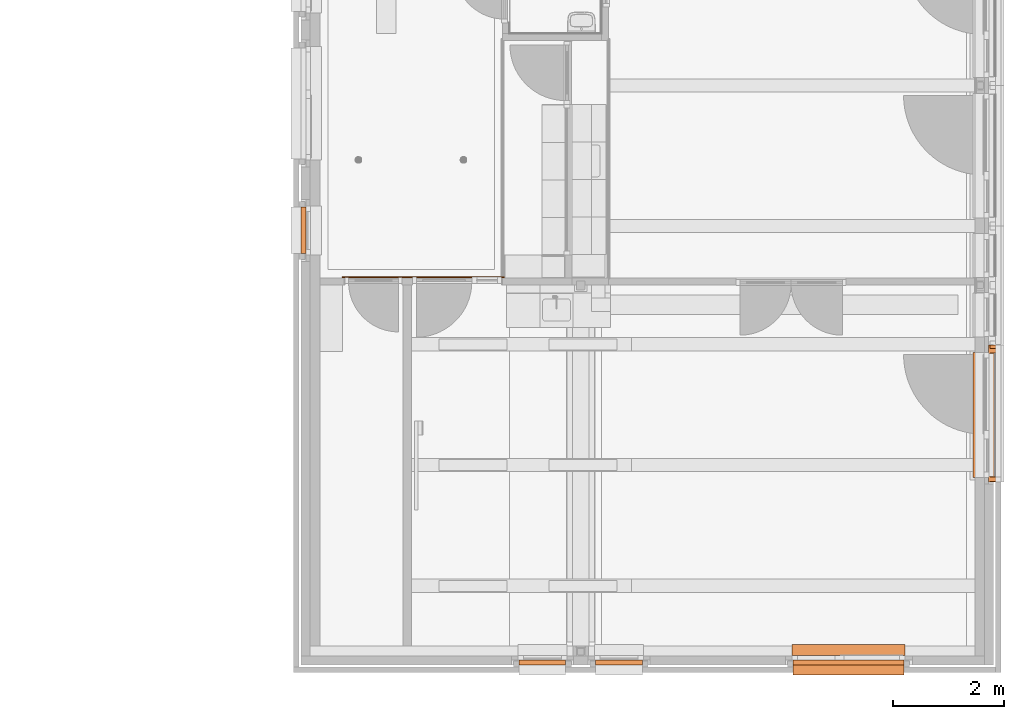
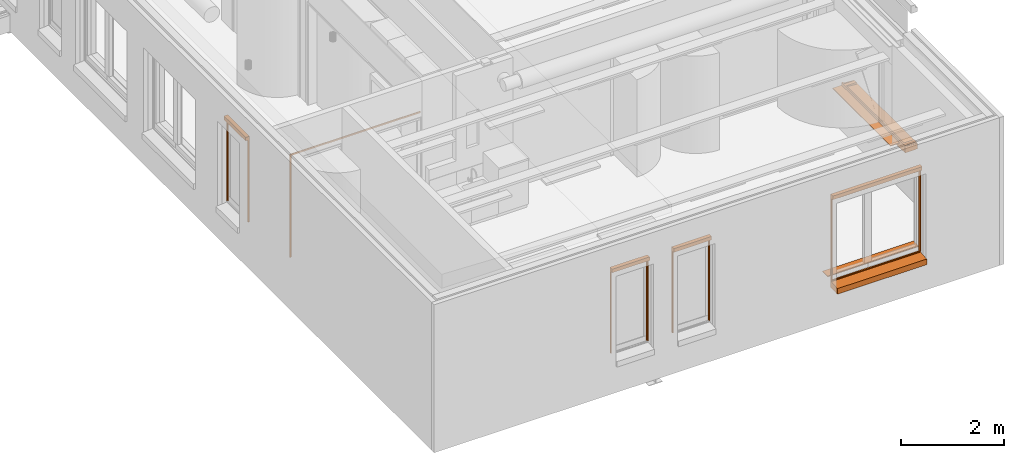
# One storey, part 96 of 128: 9 proxies.
"""IFC2X3 building model written with IfcOpenShell, lengths in millimetres."""

from ifc_helpers import new_model, entity, si_unit, converted_unit, derived_unit, direction, frame, frame_2d, origin, origin_2d_with_axis, place, context, subcontext, project, spatial, polyline, circle_curve, parameter, trimmed, segment, composite_curve, rectangle, outline, extrude, source, transform, mapped, material, material_list, type_object, type_shapes, element, save


model = new_model("IFC2X3")

# Units and contexts
model_context = context("Model", 3, precision=0.01, world=origin(), true_north=direction((6.123031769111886e-17, 1.0)))
body_context = subcontext(model_context, "Body", "Model", "MODEL_VIEW")
ifc_project = project(units=[si_unit("LENGTHUNIT", "METRE", prefix="MILLI"), si_unit("AREAUNIT", "SQUARE_METRE"), si_unit("VOLUMEUNIT", "CUBIC_METRE"), converted_unit("PLANEANGLEUNIT", "DEGREE", entity("IfcRatioMeasure", 0.017453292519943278), si_unit("PLANEANGLEUNIT", "RADIAN"), dimensions=[0, 0, 0, 0, 0, 0, 0]), si_unit("MASSUNIT", "GRAM", prefix="KILO"), derived_unit("MASSDENSITYUNIT", [(si_unit("MASSUNIT", "GRAM", prefix="KILO"), 1), (si_unit("LENGTHUNIT", "METRE"), -3)]), derived_unit("IONCONCENTRATIONUNIT", [(si_unit("MASSUNIT", "GRAM", prefix="KILO"), 1), (si_unit("LENGTHUNIT", "METRE"), -3)]), derived_unit("MOMENTOFINERTIAUNIT", [(si_unit("LENGTHUNIT", "METRE"), 4)]), si_unit("TIMEUNIT", "SECOND"), si_unit("FREQUENCYUNIT", "HERTZ"), si_unit("THERMODYNAMICTEMPERATUREUNIT", "DEGREE_CELSIUS"), derived_unit("THERMALTRANSMITTANCEUNIT", [(si_unit("MASSUNIT", "GRAM", prefix="KILO"), 1), (si_unit("THERMODYNAMICTEMPERATUREUNIT", "KELVIN"), -1), (si_unit("TIMEUNIT", "SECOND"), -3)]), derived_unit("THERMALCONDUCTANCEUNIT", [(si_unit("MASSUNIT", "GRAM", prefix="KILO"), 1), (si_unit("THERMODYNAMICTEMPERATUREUNIT", "KELVIN"), -1), (si_unit("TIMEUNIT", "SECOND"), -3), (si_unit("LENGTHUNIT", "METRE"), 1)]), derived_unit("VOLUMETRICFLOWRATEUNIT", [(si_unit("LENGTHUNIT", "METRE"), 3), (si_unit("TIMEUNIT", "SECOND"), -1)]), derived_unit("MASSFLOWRATEUNIT", [(si_unit("MASSUNIT", "GRAM", prefix="KILO"), 1), (si_unit("TIMEUNIT", "SECOND"), -1)]), derived_unit("ROTATIONALFREQUENCYUNIT", [(si_unit("TIMEUNIT", "SECOND"), -1)]), si_unit("ELECTRICCURRENTUNIT", "AMPERE"), si_unit("ELECTRICVOLTAGEUNIT", "VOLT"), si_unit("POWERUNIT", "WATT"), si_unit("FORCEUNIT", "NEWTON", prefix="KILO"), si_unit("ILLUMINANCEUNIT", "LUX"), si_unit("LUMINOUSFLUXUNIT", "LUMEN"), si_unit("LUMINOUSINTENSITYUNIT", "CANDELA"), derived_unit("USERDEFINED", [(si_unit("MASSUNIT", "GRAM", prefix="KILO"), -1), (si_unit("LENGTHUNIT", "METRE"), -2), (si_unit("TIMEUNIT", "SECOND"), 3), (si_unit("LUMINOUSFLUXUNIT", "LUMEN"), 1)]), derived_unit("USERDEFINED", [(si_unit("MASSUNIT", "GRAM", prefix="KILO"), 1), (si_unit("TIMEUNIT", "SECOND"), -3), (si_unit("LENGTHUNIT", "METRE"), 3), (si_unit("ELECTRICCURRENTUNIT", "AMPERE"), -2)]), derived_unit("SOUNDPOWERUNIT", [(si_unit("MASSUNIT", "GRAM", prefix="KILO"), 1), (si_unit("TIMEUNIT", "SECOND"), -3), (si_unit("LENGTHUNIT", "METRE"), 2)]), derived_unit("SOUNDPRESSUREUNIT", [(si_unit("MASSUNIT", "GRAM", prefix="KILO"), 1), (si_unit("LENGTHUNIT", "METRE"), -1), (si_unit("TIMEUNIT", "SECOND"), -2)]), derived_unit("LINEARVELOCITYUNIT", [(si_unit("LENGTHUNIT", "METRE"), 1), (si_unit("TIMEUNIT", "SECOND"), -1)]), si_unit("PRESSUREUNIT", "PASCAL"), derived_unit("USERDEFINED", [(si_unit("MASSUNIT", "GRAM", prefix="KILO"), 1), (si_unit("LENGTHUNIT", "METRE"), -2), (si_unit("TIMEUNIT", "SECOND"), -2)]), derived_unit("LINEARFORCEUNIT", [(si_unit("MASSUNIT", "GRAM", prefix="KILO"), 1), (si_unit("TIMEUNIT", "SECOND"), -2)]), derived_unit("PLANARFORCEUNIT", [(si_unit("MASSUNIT", "GRAM", prefix="KILO"), 1), (si_unit("LENGTHUNIT", "METRE"), -1), (si_unit("TIMEUNIT", "SECOND"), -2)]), derived_unit("SPECIFICHEATCAPACITYUNIT", [(si_unit("THERMODYNAMICTEMPERATUREUNIT", "KELVIN"), -1), (si_unit("LENGTHUNIT", "METRE"), 2), (si_unit("TIMEUNIT", "SECOND"), -2)]), derived_unit("HEATINGVALUEUNIT", [(si_unit("LENGTHUNIT", "METRE"), 2), (si_unit("TIMEUNIT", "SECOND"), -2)]), derived_unit("VAPORPERMEABILITYUNIT", [(si_unit("LENGTHUNIT", "METRE"), -1), (si_unit("TIMEUNIT", "SECOND"), 1)]), derived_unit("DYNAMICVISCOSITYUNIT", [(si_unit("MASSUNIT", "GRAM", prefix="KILO"), 1), (si_unit("TIMEUNIT", "SECOND"), -1), (si_unit("LENGTHUNIT", "METRE"), -1)]), derived_unit("THERMALEXPANSIONCOEFFICIENTUNIT", [(si_unit("THERMODYNAMICTEMPERATUREUNIT", "KELVIN"), -1)]), derived_unit("MODULUSOFELASTICITYUNIT", [(si_unit("MASSUNIT", "GRAM", prefix="KILO"), 1), (si_unit("LENGTHUNIT", "METRE"), -1), (si_unit("TIMEUNIT", "SECOND"), -2)]), derived_unit("ISOTHERMALMOISTURECAPACITYUNIT", [(si_unit("LENGTHUNIT", "METRE"), 3), (si_unit("MASSUNIT", "GRAM", prefix="KILO"), -1)]), derived_unit("MOISTUREDIFFUSIVITYUNIT", [(si_unit("TIMEUNIT", "SECOND"), -1), (si_unit("LENGTHUNIT", "METRE"), 2)])], contexts=[model_context])

# Site, building, storey
site_placement = place(None, frame((0.0, 300.0, 0.0)))
site = spatial("IfcSite", under=ifc_project, at=site_placement, Name="<Kadastrale nummers>", CompositionType="ELEMENT")
building_placement = place(site_placement, origin())
building = spatial("IfcBuilding", under=site, at=building_placement, CompositionType="ELEMENT")
storey_placement = place(building_placement, frame((0.0, 0.0, 3560.0000331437)))
storey = spatial("IfcBuildingStorey", under=building, at=storey_placement, Name="01 eerste verdieping", CompositionType="ELEMENT", Elevation=3560.0000331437)

# Proxies
ifc_material_1 = material(Name="ISR_Beton_prefab")
building_element_proxy_type_1 = type_object("IfcBuildingElementProxyType", Name="29_DAT_Prefab betonnen waterslag lang:22 eind", PredefinedType="NOTDEFINED", material=ifc_material_1)
shared_shape_1 = source(origin(), body_context, "Body", "SweptSolid", [
    extrude(outline(polyline([(-16.052237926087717, -115.0), (26.113434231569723, -115.0), (5.9910416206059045, 115.0), (-16.052237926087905, 115.0), (-16.052237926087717, -115.0)])), frame((2320.0, 75.0, -16.05223792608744), z_axis=(1.0, 0.0, 0.0), x_axis=(0.0, 0.0, -1.0)), (0.0, 0.0, 1.0), 79.99999999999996),
    extrude(outline(polyline([(-16.052237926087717, -115.0), (26.113434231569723, -115.0), (5.9910416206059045, 115.0), (-16.052237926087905, 115.0), (-16.052237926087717, -115.0)])), frame((10.0, 75.0, -16.05223792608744), z_axis=(1.0, 0.0, 0.0), x_axis=(0.0, 0.0, -1.0)), (0.0, 0.0, 1.0), 80.00000000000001),
    extrude(outline(composite_curve([segment(polyline([(-140.0, -95.7340207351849), (-110.0, -95.7340207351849)]), True, "CONTINUOUS"), segment(polyline([(-110.0, -95.7340207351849), (-110.0, -73.7340207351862)]), True, "CONTINUOUS"), segment(polyline([(-110.0, -73.7340207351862), (140.0, -51.861854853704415)]), True, "CONTINUOUS"), segment(polyline([(140.0, -51.86185485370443), (140.0, 79.26597926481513)]), True, "CONTINUOUS"), segment(polyline([(140.0, 79.26597926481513), (115.0, 79.26597926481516)]), True, "CONTINUOUS"), segment(trimmed(circle_curve(frame_2d((110.0, 79.26597926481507), x_axis=(1.0, 0.0)), 5.000000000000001), [parameter(179.99999999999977)], [parameter(4.0711099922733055e-13)], True, "PARAMETER"), False, "CONTINUOUS"), segment(polyline([(105.0, 79.26597926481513), (-140.0, 79.26597926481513)]), True, "CONTINUOUS"), segment(polyline([(-140.0, 79.26597926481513), (-140.0, -95.7340207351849)]), True, "CONTINUOUS")], self_intersect=False)), frame((0.0, 80.0, -95.73402073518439), z_axis=(1.0, 0.0, 0.0), x_axis=(0.0, -1.0, 0.0)), (0.0, 0.0, 1.0), 2467.0000000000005),
])
type_shapes(building_element_proxy_type_1, [shared_shape_1])
proxy_1_placement = place(storey_placement, frame((48965.0, 5760.0, 890.0000018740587), z_axis=(0.0, 0.0, 1.0), x_axis=(0.0, 1.0, 0.0)))
element("IfcBuildingElementProxy", 1, at=proxy_1_placement, inside=storey, type_object=building_element_proxy_type_1, material=ifc_material_1, Name="29_DAT_Prefab betonnen waterslag lang:22 eind", ObjectType="29_DAT_Prefab betonnen waterslag lang:22 eind", context=body_context, shape_type="MappedRepresentation", body=[
    mapped(shared_shape_1, transform((0.0, 0.0, 0.0), scale=1.0)),
])
building_element_proxy_type_2 = type_object("IfcBuildingElementProxyType", Name="29_DAT_Prefab betonnen waterslag kort:29_DAT_Prefab betonnen waterslag kort", PredefinedType="NOTDEFINED", material=ifc_material_1)
shared_shape_2 = source(origin(), body_context, "Body", "SweptSolid", [
    extrude(outline(composite_curve([segment(polyline([(-137.5, -95.62465990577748), (-107.49999999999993, -95.62465990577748)]), True, "CONTINUOUS"), segment(polyline([(-107.49999999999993, -95.62465990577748), (-107.49999999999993, -73.62465990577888)]), True, "CONTINUOUS"), segment(polyline([(-107.49999999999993, -73.62465990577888), (132.50000000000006, -52.627380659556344)]), True, "CONTINUOUS"), segment(polyline([(132.5, -52.627380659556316), (132.5, 79.37534009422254)]), True, "CONTINUOUS"), segment(polyline([(132.5, 79.37534009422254), (117.49999999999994, 79.37534009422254)]), True, "CONTINUOUS"), segment(trimmed(circle_curve(frame_2d((112.49999999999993, 79.37534009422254), x_axis=(1.0, 0.0)), 5.000000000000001), [parameter(179.99999999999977)], [parameter(359.9999999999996)], True, "PARAMETER"), False, "CONTINUOUS"), segment(polyline([(107.49999999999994, 79.37534009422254), (-137.5, 79.37534009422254)]), True, "CONTINUOUS"), segment(polyline([(-137.5, 79.37534009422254), (-137.5, -95.62465990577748)]), True, "CONTINUOUS")], self_intersect=False)), frame((0.0, 82.50000000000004, -95.62465990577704), z_axis=(1.0, 0.0, 0.0), x_axis=(0.0, -1.0, 0.0)), (0.0, 0.0, 1.0), 2000.0000000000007),
])
type_shapes(building_element_proxy_type_2, [shared_shape_2])
proxy_2_placement = place(storey_placement, frame((45225.0, 2335.0, 890.0000018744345)))
element("IfcBuildingElementProxy", 2, at=proxy_2_placement, inside=storey, type_object=building_element_proxy_type_2, material=ifc_material_1, Name="29_DAT_Prefab betonnen waterslag kort:29_DAT_Prefab betonnen waterslag kort", ObjectType="29_DAT_Prefab betonnen waterslag kort:29_DAT_Prefab betonnen waterslag kort", context=body_context, shape_type="MappedRepresentation", body=[
    mapped(shared_shape_2, transform((0.0, 0.0, 0.0), scale=1.0)),
])

# Space
space_placement = place(storey_placement, origin())
space = spatial("IfcSpace", under=storey, at=space_placement, Name="1.24", CompositionType="ELEMENT", InteriorOrExteriorSpace="INTERNAL")

# Proxies
ifc_material_2 = material(Name="e1_natuursteen")
building_element_proxy_type_3 = type_object("IfcBuildingElementProxyType", Name="NLRS_31_GM_WPB_vensterbank natuursteen -SH_gen_ASN:200x18", PredefinedType="USERDEFINED", material=ifc_material_2)
shared_shape_3 = source(origin(), body_context, "Body", "SweptSolid", [
    extrude(rectangle(XDim=200.0, YDim=2250.000000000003, at=origin_2d_with_axis()), frame((0.0, -100.0, 0.0), z_axis=(0.0, 0.0, 1.0), x_axis=(0.0, -1.0, 0.0)), (0.0, 0.0, 1.0), 17.999999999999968),
])
type_shapes(building_element_proxy_type_3, [shared_shape_3])
proxy_3_placement = place(space_placement, frame((48468.0, 6965.0, 920.0000018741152), z_axis=(0.0, 0.0, 1.0), x_axis=(0.0, 1.0, 0.0)))
element("IfcBuildingElementProxy", 3, at=proxy_3_placement, inside=space, type_object=building_element_proxy_type_3, material=ifc_material_2, Name="NLRS_31_GM_WPB_vensterbank natuursteen -SH_gen_ASN:200x18", ObjectType="NLRS_31_GM_WPB_vensterbank natuursteen -SH_gen_ASN:200x18", context=body_context, shape_type="MappedRepresentation", body=[
    mapped(shared_shape_3, transform((0.0, 0.0, 0.0), scale=1.0)),
])
ifc_material_3 = material(Name="STAAL_RAL 7006")
ifc_material_4 = material(Name="<Unnamed>")
ifc_material_list = material_list([ifc_material_3, ifc_material_4])
building_element_proxy_type_4 = type_object("IfcBuildingElementProxyType", Name="31_DAT_Screen_zonwering_bak85:31_DAT_Screen_zonwering_bak85", PredefinedType="NOTDEFINED", material=ifc_material_list)
shared_shape_4 = source(origin(), body_context, "Body", "SweptSolid", [
    extrude(outline(polyline([(-53.573897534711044, -60.698648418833), (27.826102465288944, -60.698648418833), (27.826102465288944, 17.501351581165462), (24.626102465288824, 17.501351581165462), (24.626102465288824, 22.501351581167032), (1.1216926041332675, 22.501351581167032), (1.1216926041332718, 20.695945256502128), (-53.573897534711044, 20.695945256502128), (-53.573897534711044, -60.698648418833)])), frame((838.0, 29.62610246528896, 2772.501351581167), z_axis=(1.0, 0.0, 0.0), x_axis=(0.0, -1.0, 0.0)), (0.0, 0.0, 1.0), 1.9999999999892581),
    extrude(outline(polyline([(-51.082598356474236, -55.832432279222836), (33.91740164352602, -55.832432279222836), (33.91740164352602, 29.167567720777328), (28.91740164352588, 29.167567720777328), (28.91740164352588, 24.16756772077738), (32.117401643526, 24.16756772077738), (32.117401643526, -54.032432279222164), (-49.28259835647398, -54.032432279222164), (-49.28259835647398, 27.362161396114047), (5.41299178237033, 27.362161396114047), (5.41299178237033, 29.167567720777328), (-51.082598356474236, 29.167567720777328), (-51.082598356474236, -55.832432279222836)])), frame((0.0, 33.91740164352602, 2779.1675677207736), z_axis=(1.0, 0.0, 0.0), x_axis=(0.0, -1.0, 0.0)), (0.0, 0.0, 1.0), 839.9999999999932),
    extrude(outline(polyline([(-53.573897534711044, -60.698648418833), (27.826102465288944, -60.698648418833), (27.826102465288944, 17.501351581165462), (24.626102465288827, 17.501351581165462), (24.626102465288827, 22.501351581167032), (1.1216926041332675, 22.501351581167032), (1.1216926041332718, 20.695945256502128), (-53.573897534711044, 20.695945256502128), (-53.573897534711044, -60.698648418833)])), frame((0.0, 29.62610246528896, 2772.501351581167), z_axis=(1.0, 0.0, 0.0), x_axis=(0.0, -1.0, 0.0)), (0.0, 0.0, 1.0), 1.999999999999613),
    extrude(rectangle(XDim=1.163311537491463, YDim=800.0000000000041, at=frame_2d((2.1094237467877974e-15, 0.0), x_axis=(1.0, 0.0))), frame((420.0, 20.03729323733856, 2750.0), z_axis=(0.0, 0.0, 1.0), x_axis=(0.0, -1.0, 0.0)), (0.0, 0.0, 1.0), 47.3934410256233),
    extrude(outline(composite_curve([segment(trimmed(circle_curve(frame_2d((21.523758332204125, 7.502327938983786), x_axis=(1.0, 0.0)), 1.5000000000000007), [parameter(6.615553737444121e-13)], [parameter(90.00000000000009)], True, "PARAMETER"), True, "CONTINUOUS"), segment(polyline([(21.523758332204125, 9.00232793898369), (-8.97624166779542, 9.00232793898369)]), True, "CONTINUOUS"), segment(trimmed(circle_curve(frame_2d((-8.97624166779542, 6.00232793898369), x_axis=(1.0, 0.0)), 3.0), [parameter(90.00000000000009)], [parameter(172.8445490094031)], True, "PARAMETER"), True, "CONTINUOUS"), segment(polyline([(-11.952877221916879, 6.376013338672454), (-12.470504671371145, 2.2367466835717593)]), True, "CONTINUOUS"), segment(trimmed(circle_curve(frame_2d((-11.733933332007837, 2.1446362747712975), x_axis=(1.0, 0.0)), 0.7423083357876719), [parameter(172.87199730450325)], [parameter(320.7928857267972)], True, "PARAMETER"), True, "CONTINUOUS"), segment(trimmed(circle_curve(frame_2d((-8.97624166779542, 0.002327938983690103), x_axis=(1.0, 0.0)), 2.75), [parameter(218.21030001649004)], [parameter(142.52672013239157)], True, "PARAMETER"), False, "CONTINUOUS"), segment(trimmed(circle_curve(frame_2d((-11.733933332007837, -2.1399803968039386), x_axis=(1.0, 0.0)), 0.7423083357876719), [parameter(36.476465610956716)], [parameter(187.12800269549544)], True, "PARAMETER"), True, "CONTINUOUS"), segment(polyline([(-12.470504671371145, -2.2320908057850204), (-11.95287722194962, -6.3713574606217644)]), True, "CONTINUOUS"), segment(trimmed(circle_curve(frame_2d((-8.97624166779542, -5.9976720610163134), x_axis=(1.0, 0.0)), 3.0), [parameter(187.15545099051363)], [parameter(269.9999999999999)], True, "PARAMETER"), True, "CONTINUOUS"), segment(polyline([(-8.97624166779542, -8.997672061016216), (21.523758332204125, -8.997672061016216)]), True, "CONTINUOUS"), segment(trimmed(circle_curve(frame_2d((21.523758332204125, -7.497672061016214), x_axis=(1.0, 0.0)), 1.4999999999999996), [parameter(269.9999999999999)], [parameter(7.124442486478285e-13)], True, "PARAMETER"), True, "CONTINUOUS"), segment(polyline([(23.02375833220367, -7.4976720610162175), (23.02375833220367, 7.50232793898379)]), True, "CONTINUOUS")], self_intersect=False)), frame((20.0, 19.99767206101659, 2790.417199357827), z_axis=(1.0, 0.0, 0.0), x_axis=(0.0, 0.0, -1.0)), (0.0, 0.0, 1.0), 800.0000000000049),
    extrude(outline(polyline([(-16.231574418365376, -14.638298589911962), (13.768425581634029, -14.638298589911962), (13.768425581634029, 15.36170141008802), (-6.2315744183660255, 15.36170141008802), (-6.2315744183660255, 10.361701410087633), (-4.769580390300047, 10.361701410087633), (-4.769580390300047, 13.866111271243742), (12.23272922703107, 13.866111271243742), (12.23272922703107, -4.579546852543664), (-4.769580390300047, -4.579546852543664), (-4.769580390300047, -1.1166850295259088), (-6.231574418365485, -1.1166850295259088), (-6.231574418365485, -6.116685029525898), (12.232729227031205, -6.116685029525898), (12.232729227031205, -13.138298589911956), (-16.231574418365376, -13.138298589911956), (-16.231574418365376, -14.638298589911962)])), frame((826.2315744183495, 14.638298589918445, 810.0)), (0.0, 0.0, 1.0), 1940.0000000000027),
    extrude(outline(polyline([(-14.638298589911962, -16.231574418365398), (-13.13829858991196, -16.231574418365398), (-13.13829858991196, 12.232729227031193), (-6.116685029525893, 12.232729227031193), (-6.116685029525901, -6.231574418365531), (-1.116685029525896, -6.231574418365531), (-1.116685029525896, -4.769580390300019), (-4.579546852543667, -4.769580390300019), (-4.579546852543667, 12.2327292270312), (13.866111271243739, 12.2327292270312), (13.866111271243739, -4.769580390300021), (10.361701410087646, -4.769580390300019), (10.361701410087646, -6.231574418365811), (15.361701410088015, -6.231574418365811), (15.361701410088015, 13.76842558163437), (-14.638298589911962, 13.76842558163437), (-14.638298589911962, -16.231574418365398)])), frame((13.768425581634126, 14.638298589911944, 810.0), z_axis=(0.0, 0.0, 1.0), x_axis=(0.0, 1.0, 0.0)), (0.0, 0.0, 1.0), 1940.0000000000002),
])
type_shapes(building_element_proxy_type_4, [shared_shape_4])
for number, where, z_axis, x_axis, name in (
    (4, (36449.0, 9870.0, 90.00000187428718), (0.0, 0.0, 1.0), (0.0, 1.0, 0.0), "31_DAT_Screen_zonwering_bak85:31_DAT_Screen_zonwering_bak85"),
    (5, (41130.0, 2548.9986232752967, 90.00000187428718), (0.0, 0.0, 1.0), (-1.0, 0.0, 0.0), "31_DAT_Screen_zonwering_bak85:31_DAT_Screen_zonwering_bak85"),
    (6, (42510.0, 2548.998623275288, 90.00000187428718), (0.0, 0.0, 1.0), (-1.0, 0.0, 0.0), "31_DAT_Screen_zonwering_bak85:31_DAT_Screen_zonwering_bak85"),
):
    element("IfcBuildingElementProxy", number, at=place(storey_placement, frame(where, z_axis=z_axis, x_axis=x_axis)), inside=storey, type_object=building_element_proxy_type_4, material=ifc_material_list, Name=name, ObjectType="31_DAT_Screen_zonwering_bak85:31_DAT_Screen_zonwering_bak85", context=body_context, shape_type="MappedRepresentation", body=[
        mapped(shared_shape_4, transform((0.0, 0.0, 0.0), scale=1.0)),
    ])
building_element_proxy_type_5 = type_object("IfcBuildingElementProxyType", Name="31_DAT_Screen_zonwering_bak85:31_DAT_Screen_zonwering_bak85", PredefinedType="NOTDEFINED", material=ifc_material_list)
shared_shape_5 = source(origin(), body_context, "Body", "SweptSolid", [
    extrude(outline(polyline([(-60.69864841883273, -53.573897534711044), (20.695945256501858, -53.573897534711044), (20.695945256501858, 1.1216926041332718), (22.501351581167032, 1.1216926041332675), (22.501351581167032, 24.626102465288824), (17.501351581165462, 24.626102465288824), (17.501351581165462, 27.826102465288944), (-60.69864841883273, 27.826102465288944), (-60.69864841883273, -53.573897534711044)])), frame((1998.0, -29.62610246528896, 2422.501351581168), z_axis=(1.0, 0.0, 0.0), x_axis=(0.0, 0.0, -1.0)), (0.0, 0.0, 1.0), 1.9999999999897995),
    extrude(outline(polyline([(-55.83243227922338, -51.08259835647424), (29.167567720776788, -51.08259835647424), (29.167567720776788, 5.412991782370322), (27.362161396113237, 5.412991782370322), (27.362161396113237, -49.28259835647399), (-54.032432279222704, -49.28259835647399), (-54.032432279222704, 32.117401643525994), (24.16756772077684, 32.117401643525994), (24.16756772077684, 28.91740164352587), (29.167567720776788, 28.91740164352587), (29.167567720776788, 33.917401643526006), (-55.83243227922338, 33.917401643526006), (-55.83243227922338, -51.08259835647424)])), frame((0.0, -33.917401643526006, 2429.1675677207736), z_axis=(1.0, 0.0, 0.0), x_axis=(0.0, 0.0, -1.0)), (0.0, 0.0, 1.0), 1999.999999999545),
    extrude(outline(polyline([(-60.69864841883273, -53.573897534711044), (20.695945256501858, -53.573897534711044), (20.695945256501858, 1.1216926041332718), (22.501351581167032, 1.1216926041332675), (22.501351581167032, 24.626102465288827), (17.501351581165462, 24.626102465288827), (17.501351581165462, 27.826102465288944), (-60.69864841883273, 27.826102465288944), (-60.69864841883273, -53.573897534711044)])), frame((0.0, -29.62610246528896, 2422.501351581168), z_axis=(1.0, 0.0, 0.0), x_axis=(0.0, 0.0, -1.0)), (0.0, 0.0, 1.0), 1.999999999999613),
    extrude(rectangle(XDim=1959.9999999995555, YDim=1.163311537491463, at=frame_2d((0.0, -2.1094237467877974e-15), x_axis=(1.0, 0.0))), frame((1000.0, -20.037293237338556, 2382.3606486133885)), (0.0, 0.0, 1.0), 17.639351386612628),
    extrude(outline(composite_curve([segment(polyline([(-7.5023279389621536, -23.023758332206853), (7.4976720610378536, -23.023758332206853)]), True, "CONTINUOUS"), segment(trimmed(circle_curve(frame_2d((7.49767206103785, -21.523758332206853), x_axis=(0.0, -1.0)), 1.4999999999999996), [parameter(359.99999999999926)], [parameter(90.00000000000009)], True, "PARAMETER"), True, "CONTINUOUS"), segment(polyline([(8.997672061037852, -21.523758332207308), (8.997672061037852, 8.976241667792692)]), True, "CONTINUOUS"), segment(trimmed(circle_curve(frame_2d((5.9976720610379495, 8.976241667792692), x_axis=(0.0, -1.0)), 3.0), [parameter(90.00000000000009)], [parameter(172.84454900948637)], True, "PARAMETER"), True, "CONTINUOUS"), segment(polyline([(6.3713574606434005, 11.952877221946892), (2.2320908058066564, 12.470504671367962)]), True, "CONTINUOUS"), segment(trimmed(circle_curve(frame_2d((2.1399803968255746, 11.733933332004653), x_axis=(0.0, -1.0)), 0.7423083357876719), [parameter(172.87199730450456)], [parameter(323.5235343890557)], True, "PARAMETER"), True, "CONTINUOUS"), segment(trimmed(circle_curve(frame_2d((-0.002327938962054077, 8.976241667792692), x_axis=(0.0, -1.0)), 2.75), [parameter(217.47327986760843)], [parameter(141.78969998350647)], True, "PARAMETER"), False, "CONTINUOUS"), segment(trimmed(circle_curve(frame_2d((-2.1446362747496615, 11.733933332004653), x_axis=(0.0, -1.0)), 0.7423083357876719), [parameter(39.207114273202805)], [parameter(187.12800269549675)], True, "PARAMETER"), True, "CONTINUOUS"), segment(polyline([(-2.2367466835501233, 12.470504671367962), (-6.376013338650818, 11.952877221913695)]), True, "CONTINUOUS"), segment(trimmed(circle_curve(frame_2d((-6.002327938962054, 8.976241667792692), x_axis=(0.0, -1.0)), 3.0), [parameter(187.1554509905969)], [parameter(269.9999999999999)], True, "PARAMETER"), True, "CONTINUOUS"), segment(polyline([(-9.002327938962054, 8.976241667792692), (-9.002327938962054, -21.523758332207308)]), True, "CONTINUOUS"), segment(trimmed(circle_curve(frame_2d((-7.50232793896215, -21.523758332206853), x_axis=(0.0, -1.0)), 1.5000000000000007), [parameter(269.9999999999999)], [parameter(359.9999999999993)], True, "PARAMETER"), True, "CONTINUOUS")], self_intersect=False)), frame((20.0, -19.997672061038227, 2375.3844069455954), z_axis=(1.0, 0.0, 0.0), x_axis=(0.0, 1.0, 0.0)), (0.0, 0.0, 1.0), 1959.999999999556),
    extrude(outline(polyline([(-14.638298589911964, -16.231574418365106), (-13.138298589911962, -16.231574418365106), (-13.138298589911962, 12.23272922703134), (-6.116685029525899, 12.23272922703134), (-6.116685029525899, -6.231574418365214), (-1.116685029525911, -6.231574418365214), (-1.116685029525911, -4.769580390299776), (-4.579546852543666, -4.769580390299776), (-4.579546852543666, 12.23272922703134), (13.86611127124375, 12.23272922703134), (13.86611127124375, -4.769580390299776), (10.36170141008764, -4.769580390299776), (10.36170141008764, -6.2315744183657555), (15.36170141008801, -6.2315744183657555), (15.36170141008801, 13.7684255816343), (-14.638298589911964, 13.7684255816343), (-14.638298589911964, -16.231574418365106)])), frame((1986.2315744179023, -14.638298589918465, 450.0), z_axis=(0.0, 0.0, 1.0), x_axis=(0.0, -1.0, 0.0)), (0.0, 0.0, 1.0), 1950.0000000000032),
    extrude(outline(polyline([(-16.231574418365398, -14.638298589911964), (13.768425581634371, -14.638298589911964), (13.76842558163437, 15.361701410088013), (-6.231574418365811, 15.361701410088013), (-6.231574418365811, 10.361701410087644), (-4.769580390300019, 10.361701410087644), (-4.769580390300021, 13.866111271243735), (12.2327292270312, 13.866111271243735), (12.2327292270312, -4.57954685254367), (-4.769580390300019, -4.57954685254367), (-4.769580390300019, -1.1166850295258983), (-6.231574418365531, -1.1166850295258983), (-6.231574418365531, -6.116685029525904), (12.232729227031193, -6.116685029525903), (12.232729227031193, -13.138298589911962), (-16.231574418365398, -13.138298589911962), (-16.231574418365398, -14.638298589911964)])), frame((13.768425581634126, -14.638298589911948, 450.0), z_axis=(0.0, 0.0, 1.0), x_axis=(-1.0, 0.0, 0.0)), (0.0, 0.0, 1.0), 1950.0000000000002),
])
type_shapes(building_element_proxy_type_5, [shared_shape_5])
proxy_4_placement = place(storey_placement, frame((45225.0, 2548.9986232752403, 440.0000018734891)))
element("IfcBuildingElementProxy", 7, at=proxy_4_placement, inside=storey, type_object=building_element_proxy_type_5, material=ifc_material_list, Name="31_DAT_Screen_zonwering_bak85:31_DAT_Screen_zonwering_bak85", ObjectType="31_DAT_Screen_zonwering_bak85:31_DAT_Screen_zonwering_bak85", context=body_context, shape_type="MappedRepresentation", body=[
    mapped(shared_shape_5, transform((0.0, 0.0, 0.0), scale=1.0)),
])
building_element_proxy_type_6 = type_object("IfcBuildingElementProxyType", Name="NLRS_31_GM_WPB_vensterbank natuursteen -SH_gen_ASN:200x18", PredefinedType="USERDEFINED", material=ifc_material_2)
shared_shape_6 = source(origin(), body_context, "Body", "SweptSolid", [
    extrude(rectangle(XDim=200.0, YDim=2040.0000000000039, at=origin_2d_with_axis()), frame((0.0, -100.0, 0.0), z_axis=(0.0, 0.0, 1.0), x_axis=(0.0, -1.0, 0.0)), (0.0, 0.0, 1.0), 17.999999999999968),
])
type_shapes(building_element_proxy_type_6, [shared_shape_6])
proxy_5_placement = place(storey_placement, frame((46225.0, 2630.0, 920.0000018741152), z_axis=(0.0, 0.0, 1.0), x_axis=(-1.0, 0.0, 0.0)))
element("IfcBuildingElementProxy", 8, at=proxy_5_placement, inside=storey, type_object=building_element_proxy_type_6, material=ifc_material_2, Name="NLRS_31_GM_WPB_vensterbank natuursteen -SH_gen_ASN:200x18", ObjectType="NLRS_31_GM_WPB_vensterbank natuursteen -SH_gen_ASN:200x18", context=body_context, shape_type="MappedRepresentation", body=[
    mapped(shared_shape_6, transform((0.0, 0.0, 0.0), scale=1.0)),
])
ifc_material_5 = material(Name="ISR_HPL Kleur hout")
building_element_proxy_type_7 = type_object("IfcBuildingElementProxyType", Name="82_DAT_Trimlat om element:82_DAT_Trimlat om element", PredefinedType="NOTDEFINED", material=ifc_material_5)
shared_shape_7 = source(origin(), body_context, "Body", "SweptSolid", [
    extrude(rectangle(XDim=20.000000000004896, YDim=34.99999999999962, at=origin_2d_with_axis()), frame((2871.49339828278, -10.0, 0.0), z_axis=(0.0, 0.0, 1.0), x_axis=(0.0, 1.0, 0.0)), (0.0, 0.0, 1.0), 2400.000000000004),
    extrude(rectangle(XDim=19.99999999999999, YDim=2923.9933982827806, at=frame_2d((0.0, -3.410605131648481e-13), x_axis=(1.0, 0.0))), frame((1426.9966991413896, -10.0, 2400.0), z_axis=(0.0, 0.0, 1.0), x_axis=(0.0, 1.0, 0.0)), (0.0, 0.0, 1.0), 34.99999999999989),
])
type_shapes(building_element_proxy_type_7, [shared_shape_7])
proxy_6_placement = place(storey_placement, frame((39989.99339828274, 9434.998623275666, 90.00000187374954), z_axis=(0.0, 0.0, 1.0), x_axis=(-1.0, 0.0, 0.0)))
element("IfcBuildingElementProxy", 9, at=proxy_6_placement, inside=storey, type_object=building_element_proxy_type_7, material=ifc_material_5, Name="82_DAT_Trimlat om element:82_DAT_Trimlat om element", ObjectType="82_DAT_Trimlat om element:82_DAT_Trimlat om element", context=body_context, shape_type="MappedRepresentation", body=[
    mapped(shared_shape_7, transform((0.0, 0.0, 0.0), scale=1.0)),
])

save(model, "model.ifc")
